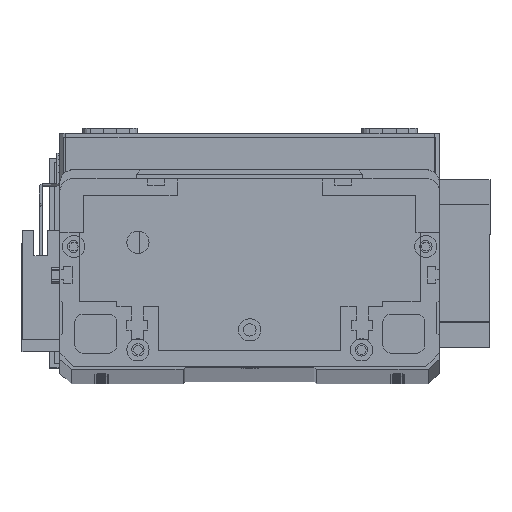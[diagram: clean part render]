
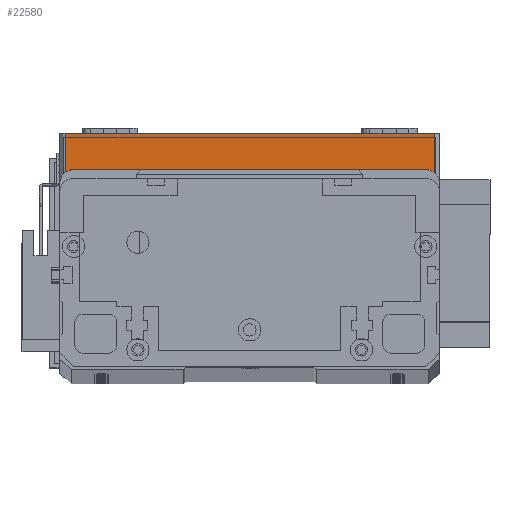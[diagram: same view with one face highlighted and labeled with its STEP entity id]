
A CAD part, top view. The second image highlights one B-rep face of the part: STEP entity #22580.
In plain terms, the highlighted planar face has unit normal (0, 0, 1) as drawn and (0, -1, 0) by its records, which use the part's own axes.
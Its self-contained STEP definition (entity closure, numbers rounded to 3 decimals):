
#1741 = CARTESIAN_POINT ( 'NONE',  ( 2., 0., 19.5 ) ) ;
#1869 = VECTOR ( 'NONE', #1961, 1000. ) ;
#1961 = DIRECTION ( 'NONE',  ( 0., 0., 1. ) ) ;
#3393 = DIRECTION ( 'NONE',  ( 0., 1., 0. ) ) ;
#3662 = EDGE_CURVE ( 'NONE', #25313, #18405, #8227, .T. ) ;
#3988 = CARTESIAN_POINT ( 'NONE',  ( 2., 0., 19.5 ) ) ;
#6440 = CARTESIAN_POINT ( 'NONE',  ( 134., 0., 0. ) ) ;
#6573 = DIRECTION ( 'NONE',  ( 0., 0., -1. ) ) ;
#6691 = CARTESIAN_POINT ( 'NONE',  ( 134., 0., 19.5 ) ) ;
#7032 = EDGE_CURVE ( 'NONE', #26260, #17853, #24979, .T. ) ;
#7866 = CARTESIAN_POINT ( 'NONE',  ( 0., 0., 19.5 ) ) ;
#8227 = LINE ( 'NONE', #6691, #1869 ) ;
#9107 = CARTESIAN_POINT ( 'NONE',  ( 2., 0., 0. ) ) ;
#10256 = LINE ( 'NONE', #7866, #21571 ) ;
#10527 = PLANE ( 'NONE',  #20398 ) ;
#11364 = CARTESIAN_POINT ( 'NONE',  ( 134., 0., 19.5 ) ) ;
#12780 = EDGE_CURVE ( 'NONE', #26260, #18405, #10256, .T. ) ;
#13018 = VECTOR ( 'NONE', #6573, 1000. ) ;
#15623 = ORIENTED_EDGE ( 'NONE', *, *, #7032, .T. ) ;
#16289 = LINE ( 'NONE', #25883, #27480 ) ;
#17101 = ORIENTED_EDGE ( 'NONE', *, *, #12780, .F. ) ;
#17806 = CARTESIAN_POINT ( 'NONE',  ( 0., 0., 19.5 ) ) ;
#17853 = VERTEX_POINT ( 'NONE', #9107 ) ;
#18405 = VERTEX_POINT ( 'NONE', #11364 ) ;
#20249 = DIRECTION ( 'NONE',  ( 0., 0., 1. ) ) ;
#20398 = AXIS2_PLACEMENT_3D ( 'NONE', #17806, #3393, #20249 ) ;
#21571 = VECTOR ( 'NONE', #22244, 1000. ) ;
#22244 = DIRECTION ( 'NONE',  ( 1., 0., 0. ) ) ;
#22580 = ADVANCED_FACE ( 'NONE', ( #29162 ), #10527, .F. ) ;
#23446 = ORIENTED_EDGE ( 'NONE', *, *, #3662, .T. ) ;
#24979 = LINE ( 'NONE', #1741, #13018 ) ;
#25313 = VERTEX_POINT ( 'NONE', #6440 ) ;
#25883 = CARTESIAN_POINT ( 'NONE',  ( 0., 0., 0. ) ) ;
#26029 = ORIENTED_EDGE ( 'NONE', *, *, #26350, .T. ) ;
#26260 = VERTEX_POINT ( 'NONE', #3988 ) ;
#26350 = EDGE_CURVE ( 'NONE', #17853, #25313, #16289, .T. ) ;
#27480 = VECTOR ( 'NONE', #28313, 1000. ) ;
#28313 = DIRECTION ( 'NONE',  ( 1., 0., 0. ) ) ;
#29016 = EDGE_LOOP ( 'NONE', ( #17101, #15623, #26029, #23446 ) ) ;
#29162 = FACE_OUTER_BOUND ( 'NONE', #29016, .T. ) ;
